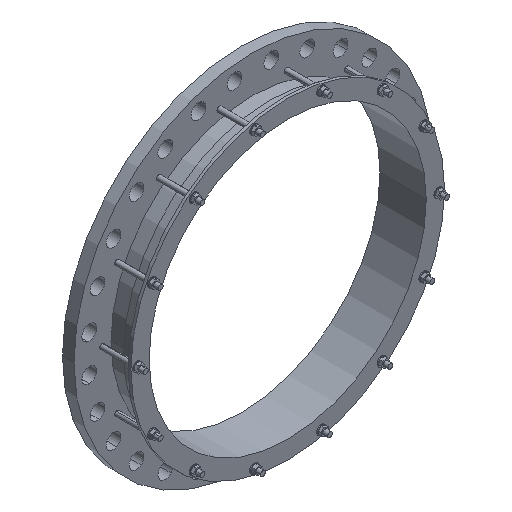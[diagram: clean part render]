
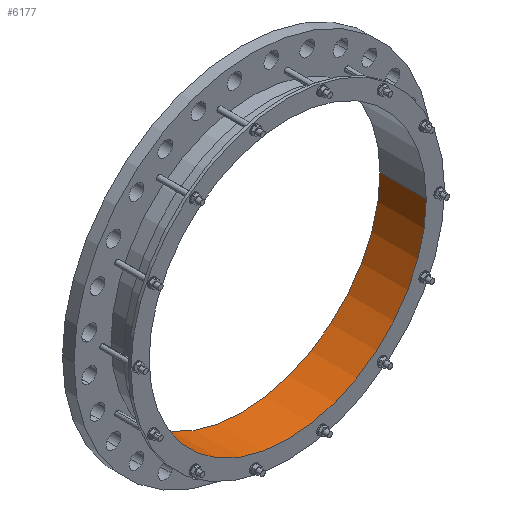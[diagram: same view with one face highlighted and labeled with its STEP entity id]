
A CAD part, isometric view. The second image highlights one B-rep face of the part: STEP entity #6177.
In plain terms, the highlighted cylindrical face has radius 458.75 mm (diameter 917.5 mm), a partial arc.
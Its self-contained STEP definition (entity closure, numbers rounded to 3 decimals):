
#7=CARTESIAN_POINT('',(0.,38.,0.));
#8=DIRECTION('',(0.,1.,0.));
#9=DIRECTION('',(1.,0.,0.));
#10=AXIS2_PLACEMENT_3D('',#7,#8,#9);
#1678=CARTESIAN_POINT('',(0.,-115.,0.));
#1679=DIRECTION('',(0.,1.,0.));
#1680=DIRECTION('',(1.,0.,0.));
#1681=AXIS2_PLACEMENT_3D('',#1678,#1679,#1680);
#1683=DIRECTION('',(0.,1.,0.));
#1684=VECTOR('',#1683,153.);
#1685=CARTESIAN_POINT('',(458.75,-115.,0.));
#1686=LINE('',#1685,#1684);
#1687=DIRECTION('',(0.,1.,0.));
#1688=VECTOR('',#1687,153.);
#1689=CARTESIAN_POINT('',(-458.75,-115.,0.));
#1690=LINE('',#1689,#1688);
#4234=CARTESIAN_POINT('',(458.75,-115.,0.));
#4235=CARTESIAN_POINT('',(458.75,38.,0.));
#4236=VERTEX_POINT('',#4234);
#4237=VERTEX_POINT('',#4235);
#4246=CARTESIAN_POINT('',(-458.75,-115.,0.));
#4247=CARTESIAN_POINT('',(-458.75,38.,0.));
#4248=VERTEX_POINT('',#4246);
#4249=VERTEX_POINT('',#4247);
#6164=CARTESIAN_POINT('',(0.,-122.65,0.));
#6165=DIRECTION('',(0.,1.,0.));
#6166=DIRECTION('',(-1.,0.,0.));
#6167=AXIS2_PLACEMENT_3D('',#6164,#6165,#6166);
#6168=CYLINDRICAL_SURFACE('',#6167,458.75);
#6170=ORIENTED_EDGE('',*,*,#6169,.F.);
#6171=ORIENTED_EDGE('',*,*,#6075,.T.);
#6173=ORIENTED_EDGE('',*,*,#6172,.T.);
#6174=ORIENTED_EDGE('',*,*,#5207,.F.);
#6175=EDGE_LOOP('',(#6170,#6171,#6173,#6174));
#6176=FACE_OUTER_BOUND('',#6175,.F.);
#6177=ADVANCED_FACE('',(#6176),#6168,.F.);
#11=CIRCLE('',#10,458.75);
#1682=CIRCLE('',#1681,458.75);
#5207=EDGE_CURVE('',#4237,#4249,#11,.T.);
#6075=EDGE_CURVE('',#4236,#4248,#1682,.T.);
#6169=EDGE_CURVE('',#4236,#4237,#1686,.T.);
#6172=EDGE_CURVE('',#4248,#4249,#1690,.T.);
